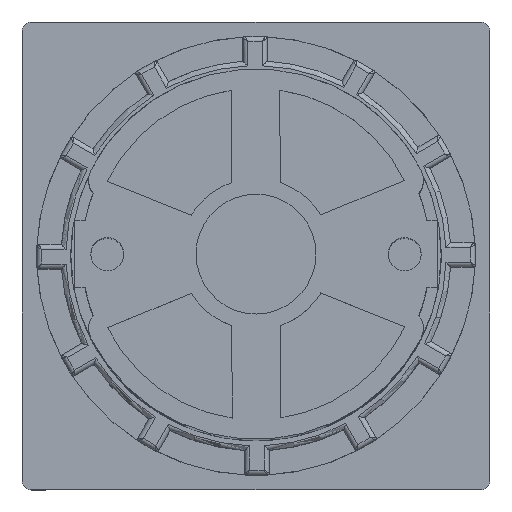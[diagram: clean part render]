
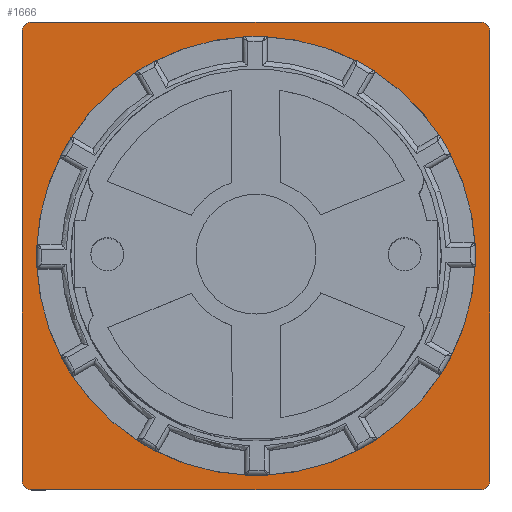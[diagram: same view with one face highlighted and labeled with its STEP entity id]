
A CAD part, top view. The second image highlights one B-rep face of the part: STEP entity #1666.
In plain terms, the highlighted planar face has unit normal (0, 0, 1).
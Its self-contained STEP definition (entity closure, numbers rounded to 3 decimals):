
#1666=ADVANCED_FACE('',(#7939,#7940),#2792,.F.);
#2792=PLANE('',#22646);
#3848=LINE('',#32093,#5802);
#3849=LINE('',#32098,#5803);
#3850=LINE('',#32102,#5804);
#3851=LINE('',#32106,#5805);
#5802=VECTOR('',#25176,1.);
#5803=VECTOR('',#25179,1.);
#5804=VECTOR('',#25182,1.);
#5805=VECTOR('',#25185,1.);
#7939=FACE_BOUND('',#8487,.T.);
#7940=FACE_BOUND('',#8488,.T.);
#8487=EDGE_LOOP('',(#10513,#10514,#10515,#10516,#10517,#10518,#10519,#10520));
#8488=EDGE_LOOP('',(#10521));
#10513=ORIENTED_EDGE('',*,*,#18762,.F.);
#10514=ORIENTED_EDGE('',*,*,#18763,.F.);
#10515=ORIENTED_EDGE('',*,*,#18764,.F.);
#10516=ORIENTED_EDGE('',*,*,#18765,.F.);
#10517=ORIENTED_EDGE('',*,*,#18766,.F.);
#10518=ORIENTED_EDGE('',*,*,#18767,.F.);
#10519=ORIENTED_EDGE('',*,*,#18768,.F.);
#10520=ORIENTED_EDGE('',*,*,#18769,.F.);
#10521=ORIENTED_EDGE('',*,*,#18724,.T.);
#16432=VERTEX_POINT('',#31998);
#16450=VERTEX_POINT('',#32094);
#16451=VERTEX_POINT('',#32095);
#16452=VERTEX_POINT('',#32097);
#16453=VERTEX_POINT('',#32099);
#16454=VERTEX_POINT('',#32101);
#16455=VERTEX_POINT('',#32103);
#16456=VERTEX_POINT('',#32105);
#16457=VERTEX_POINT('',#32107);
#18724=EDGE_CURVE('',#16432,#16432,#21662,.T.);
#18762=EDGE_CURVE('',#16450,#16451,#3848,.T.);
#18763=EDGE_CURVE('',#16452,#16450,#21692,.T.);
#18764=EDGE_CURVE('',#16453,#16452,#3849,.T.);
#18765=EDGE_CURVE('',#16454,#16453,#21693,.T.);
#18766=EDGE_CURVE('',#16455,#16454,#3850,.T.);
#18767=EDGE_CURVE('',#16456,#16455,#21694,.T.);
#18768=EDGE_CURVE('',#16457,#16456,#3851,.T.);
#18769=EDGE_CURVE('',#16451,#16457,#21695,.T.);
#21662=CIRCLE('',#22604,22.5);
#21692=CIRCLE('',#22642,1.);
#21693=CIRCLE('',#22643,1.);
#21694=CIRCLE('',#22644,1.);
#21695=CIRCLE('',#22645,1.);
#22604=AXIS2_PLACEMENT_3D('',#31997,#25092,#25093);
#22642=AXIS2_PLACEMENT_3D('',#32096,#25177,#25178);
#22643=AXIS2_PLACEMENT_3D('',#32100,#25180,#25181);
#22644=AXIS2_PLACEMENT_3D('',#32104,#25183,#25184);
#22645=AXIS2_PLACEMENT_3D('',#32108,#25186,#25187);
#22646=AXIS2_PLACEMENT_3D('',#32109,#25188,#25189);
#25092=DIRECTION('',(0.,0.,-1.));
#25093=DIRECTION('',(0.,1.,0.));
#25176=DIRECTION('',(0.,1.,0.));
#25177=DIRECTION('',(0.,0.,-1.));
#25178=DIRECTION('',(1.,0.,0.));
#25179=DIRECTION('',(-1.,0.,0.));
#25180=DIRECTION('',(0.,0.,-1.));
#25181=DIRECTION('',(1.,0.,0.));
#25182=DIRECTION('',(0.,-1.,0.));
#25183=DIRECTION('',(0.,0.,-1.));
#25184=DIRECTION('',(1.,0.,0.));
#25185=DIRECTION('',(1.,0.,0.));
#25186=DIRECTION('',(0.,0.,-1.));
#25187=DIRECTION('',(1.,0.,0.));
#25188=DIRECTION('',(0.,0.,-1.));
#25189=DIRECTION('',(-1.,0.,0.));
#31997=CARTESIAN_POINT('',(0.,0.,-18.4));
#31998=CARTESIAN_POINT('',(0.,22.5,-18.4));
#32093=CARTESIAN_POINT('',(-24.,-23.,-18.4));
#32094=CARTESIAN_POINT('',(-24.,-23.,-18.4));
#32095=CARTESIAN_POINT('',(-24.,23.,-18.4));
#32096=CARTESIAN_POINT('',(-23.,-23.,-18.4));
#32097=CARTESIAN_POINT('',(-23.,-24.,-18.4));
#32098=CARTESIAN_POINT('',(23.,-24.,-18.4));
#32099=CARTESIAN_POINT('',(23.,-24.,-18.4));
#32100=CARTESIAN_POINT('',(23.,-23.,-18.4));
#32101=CARTESIAN_POINT('',(24.,-23.,-18.4));
#32102=CARTESIAN_POINT('',(24.,23.,-18.4));
#32103=CARTESIAN_POINT('',(24.,23.,-18.4));
#32104=CARTESIAN_POINT('',(23.,23.,-18.4));
#32105=CARTESIAN_POINT('',(23.,24.,-18.4));
#32106=CARTESIAN_POINT('',(-23.,24.,-18.4));
#32107=CARTESIAN_POINT('',(-23.,24.,-18.4));
#32108=CARTESIAN_POINT('',(-23.,23.,-18.4));
#32109=CARTESIAN_POINT('',(-23.,23.,-18.4));
